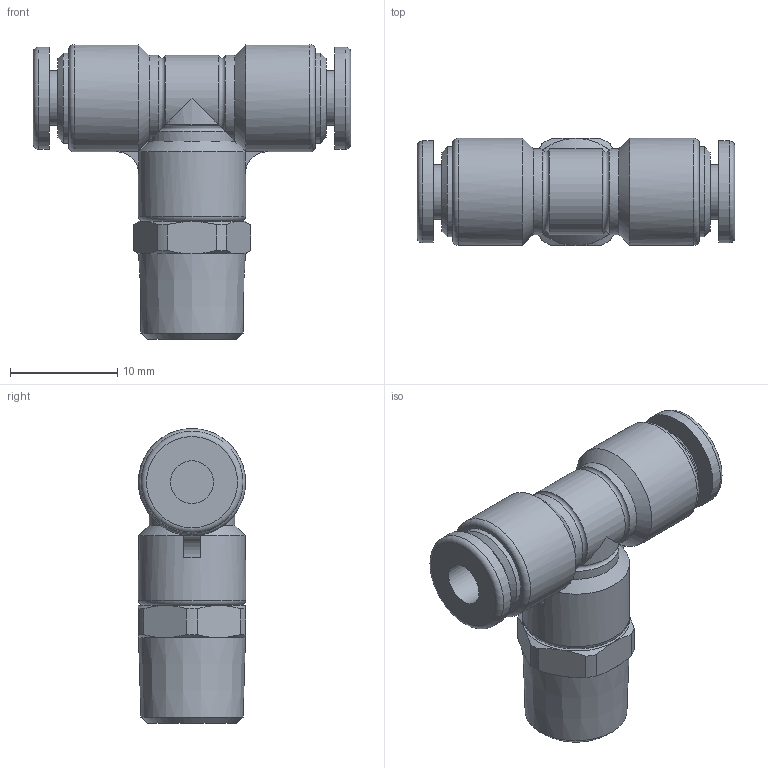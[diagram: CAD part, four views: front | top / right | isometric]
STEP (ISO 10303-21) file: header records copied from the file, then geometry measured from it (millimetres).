
FILE_DESCRIPTION(/* description */ (''),/* implementation_level */ '2;1');
FILE_NAME(/* name */ 'E:\2013年度版　3D-DATA\【02】 TOUCH CONNECTOR FIVE SUS\[03] MALE BRANCH TEE\[02] FS4-01MT FS4-01MTW.stp',/* time_stamp */ '2013-08-06T16:54:15+09:00',/* author */ ('takahashi-pc2'),/* organization */ (''),/* preprocessor_version */ 'ST-DEVELOPER v15.2',/* originating_system */ 'Autodesk Inventor 2014',/* authorisation */ '');
FILE_SCHEMA (('AUTOMOTIVE_DESIGN { 1 0 10303 214 3 1 1 }'));
Length unit declared in the file: millimetre
Products named in the file (1): [02] FS4-01MT FS4-01MTW
Bounding box: 29.6 x 10 x 27.5 mm (x, y, z)
Volume: 3037.1 mm3; surface area: 2138.6 mm2
Topology: 1 solids, 1 shells, 86 faces, 194 edges, 120 vertices
Faces by surface type: plane 31, cylinder 26, cone 20, torus 9
Full cylindrical faces by diameter (mm): 4 x2, 5.1 x2, 8.4 x2, 9.5 x2, 10 x3
Entity records: 2355 total; most frequent: CARTESIAN_POINT 531, DIRECTION 396, ORIENTED_EDGE 346, AXIS2_PLACEMENT_3D 176, EDGE_CURVE 173, VERTEX_POINT 119, EDGE_LOOP 116, ADVANCED_FACE 86
